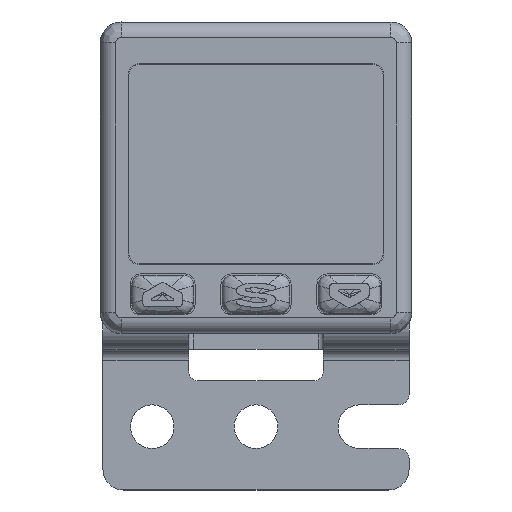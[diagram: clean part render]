
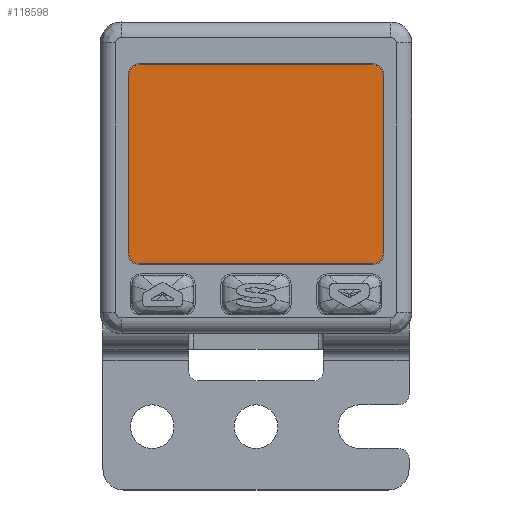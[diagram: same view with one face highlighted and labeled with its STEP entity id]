
A CAD part, top view. The second image highlights one B-rep face of the part: STEP entity #118598.
In plain terms, the highlighted planar face has unit normal (0, 0, 1).
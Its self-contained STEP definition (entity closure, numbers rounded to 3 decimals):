
#42671=DIRECTION('',(0.,1.,0.));
#42672=VECTOR('',#42671,17.2);
#42673=CARTESIAN_POINT('',(-12.33,-7.3,21.1));
#42674=LINE('',#42673,#42672);
#42679=DIRECTION('',(1.,0.,0.));
#42680=VECTOR('',#42679,22.5);
#42681=CARTESIAN_POINT('',(-11.25,10.98,21.1));
#42682=LINE('',#42681,#42680);
#42687=CARTESIAN_POINT('',(-11.25,9.9,21.1));
#42688=DIRECTION('',(0.,0.,-1.));
#42689=DIRECTION('',(-1.,0.,0.));
#42690=AXIS2_PLACEMENT_3D('',#42687,#42688,#42689);
#42700=CARTESIAN_POINT('',(11.25,9.9,21.1));
#42701=DIRECTION('',(0.,0.,-1.));
#42702=DIRECTION('',(0.,1.,0.));
#42703=AXIS2_PLACEMENT_3D('',#42700,#42701,#42702);
#42713=DIRECTION('',(0.,1.,0.));
#42714=VECTOR('',#42713,17.2);
#42715=CARTESIAN_POINT('',(12.33,-7.3,21.1));
#42716=LINE('',#42715,#42714);
#42721=CARTESIAN_POINT('',(11.25,-7.3,21.1));
#42722=DIRECTION('',(0.,0.,-1.));
#42723=DIRECTION('',(1.,0.,0.));
#42724=AXIS2_PLACEMENT_3D('',#42721,#42722,#42723);
#42734=DIRECTION('',(1.,0.,0.));
#42735=VECTOR('',#42734,22.5);
#42736=CARTESIAN_POINT('',(-11.25,-8.38,21.1));
#42737=LINE('',#42736,#42735);
#42742=CARTESIAN_POINT('',(-11.25,-7.3,21.1));
#42743=DIRECTION('',(0.,0.,-1.));
#42744=DIRECTION('',(0.,-1.,0.));
#42745=AXIS2_PLACEMENT_3D('',#42742,#42743,#42744);
#55542=CARTESIAN_POINT('',(-11.25,10.98,21.1));
#55543=CARTESIAN_POINT('',(11.25,10.98,21.1));
#55544=VERTEX_POINT('',#55542);
#55545=VERTEX_POINT('',#55543);
#55546=CARTESIAN_POINT('',(-11.25,-8.38,21.1));
#55547=CARTESIAN_POINT('',(11.25,-8.38,21.1));
#55548=VERTEX_POINT('',#55546);
#55549=VERTEX_POINT('',#55547);
#55558=CARTESIAN_POINT('',(12.33,-7.3,21.1));
#55559=CARTESIAN_POINT('',(12.33,9.9,21.1));
#55560=VERTEX_POINT('',#55558);
#55561=VERTEX_POINT('',#55559);
#55562=CARTESIAN_POINT('',(-12.33,-7.3,21.1));
#55563=CARTESIAN_POINT('',(-12.33,9.9,21.1));
#55564=VERTEX_POINT('',#55562);
#55565=VERTEX_POINT('',#55563);
#118576=CARTESIAN_POINT('',(0.,2.5,21.1));
#118577=DIRECTION('',(0.,0.,1.));
#118578=DIRECTION('',(1.,0.,0.));
#118579=AXIS2_PLACEMENT_3D('',#118576,#118577,#118578);
#118580=PLANE('',#118579);
#118582=ORIENTED_EDGE('',*,*,#118581,.T.);
#118584=ORIENTED_EDGE('',*,*,#118583,.T.);
#118586=ORIENTED_EDGE('',*,*,#118585,.F.);
#118588=ORIENTED_EDGE('',*,*,#118587,.T.);
#118590=ORIENTED_EDGE('',*,*,#118589,.F.);
#118592=ORIENTED_EDGE('',*,*,#118591,.T.);
#118593=ORIENTED_EDGE('',*,*,#118566,.T.);
#118595=ORIENTED_EDGE('',*,*,#118594,.T.);
#118596=EDGE_LOOP('',(#118582,#118584,#118586,#118588,#118590,#118592,#118593,
#118595));
#118597=FACE_OUTER_BOUND('',#118596,.F.);
#118598=ADVANCED_FACE('',(#118597),#118580,.T.);
#42691=CIRCLE('',#42690,1.08);
#42704=CIRCLE('',#42703,1.08);
#42725=CIRCLE('',#42724,1.08);
#42746=CIRCLE('',#42745,1.08);
#118566=EDGE_CURVE('',#55564,#55565,#42674,.T.);
#118581=EDGE_CURVE('',#55544,#55545,#42682,.T.);
#118583=EDGE_CURVE('',#55545,#55561,#42704,.T.);
#118585=EDGE_CURVE('',#55560,#55561,#42716,.T.);
#118587=EDGE_CURVE('',#55560,#55549,#42725,.T.);
#118589=EDGE_CURVE('',#55548,#55549,#42737,.T.);
#118591=EDGE_CURVE('',#55548,#55564,#42746,.T.);
#118594=EDGE_CURVE('',#55565,#55544,#42691,.T.);
